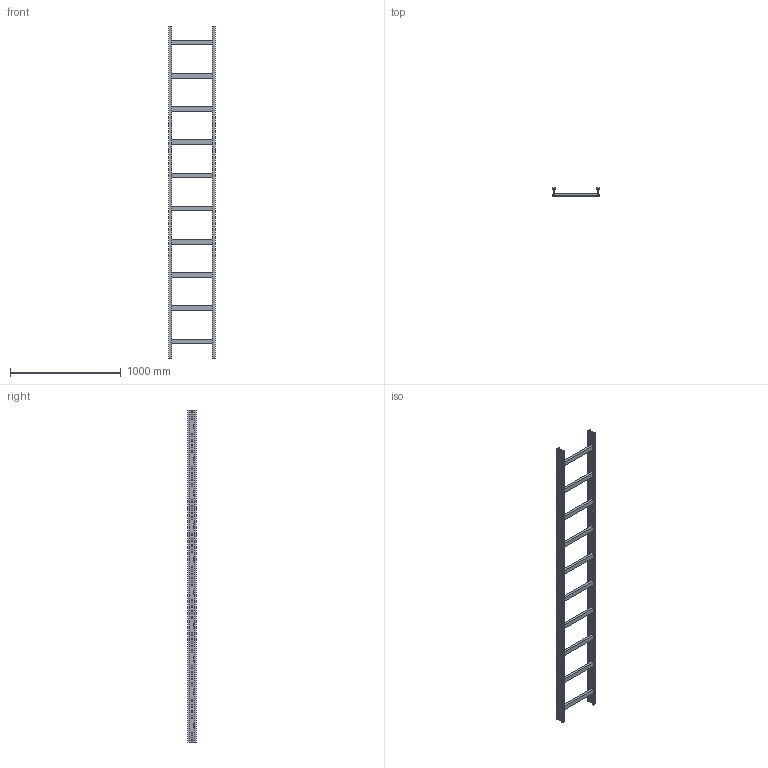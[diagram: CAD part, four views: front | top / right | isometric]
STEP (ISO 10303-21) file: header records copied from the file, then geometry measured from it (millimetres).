
FILE_DESCRIPTION (( 'STEP AP214' ), '1' );
FILE_NAME ('01S3C400.step', '2025-02-21T16:20:59', ( '' ), ( '' ), 'SwSTEP 2.0', 'SolidWorks 2023', '' );
FILE_SCHEMA (( 'AUTOMOTIVE_DESIGN' ));
Length unit declared in the file: millimetre
Products named in the file (3): LONGH.H75; 01S3C400; TRAVERSINO_400
Assembly tree (12 placements, depth 2):
  01S3C400
    LONGH.H75  x2
    TRAVERSINO_400  x10
Bounding box: 418 x 75 x 3000 mm (x, y, z)
Volume: 6145200 mm3; surface area: 1952701 mm2
Topology: 12 solids, 12 shells, 408 faces, 1152 edges, 768 vertices
Faces by surface type: plane 408
Entity records: 6180 total; most frequent: CARTESIAN_POINT 1075, ORIENTED_EDGE 1056, DIRECTION 918, LINE 528, VECTOR 528, EDGE_CURVE 528, VERTEX_POINT 352, EDGE_LOOP 260
